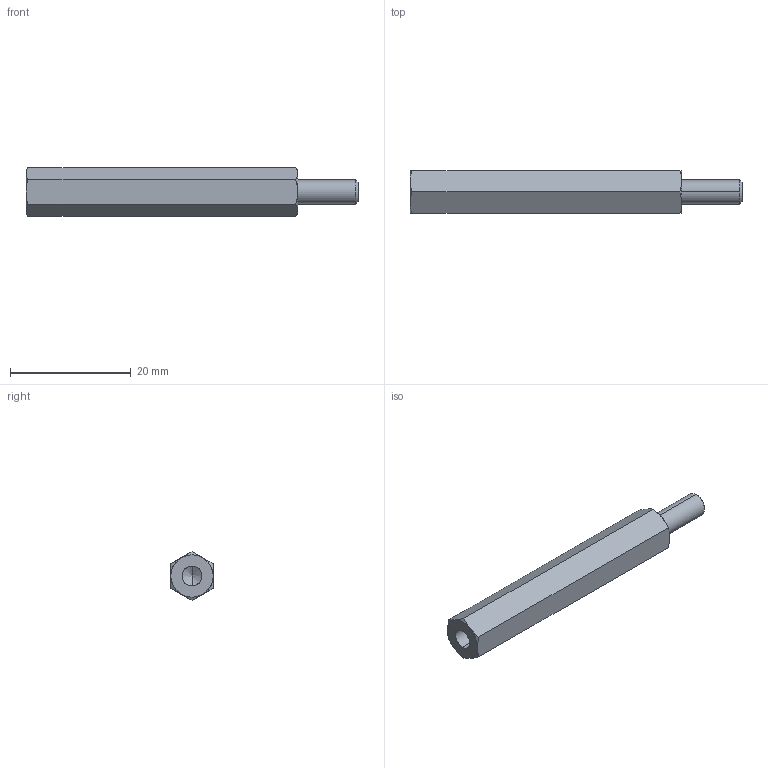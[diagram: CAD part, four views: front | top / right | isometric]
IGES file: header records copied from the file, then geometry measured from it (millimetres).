
Start section: SolidWorks IGES file using analytic representation for surfaces
Global section: file name: C:\Users\render1\Desktop\P0185_IGES\P0185.04-45.igs; native system: SolidWorks 2009; preprocessor: SolidWorks 2009; author: render1; date: 130627.112208; units: millimetre
Bounding box: 55 x 7 x 8.08 mm (x, y, z)
Surface area: 1400 mm2 (no closed solid volume)
Topology: 0 solids, 0 shells, 29 faces, 320 edges, 318 vertices
Faces by surface type: revolution 20, bspline 9
